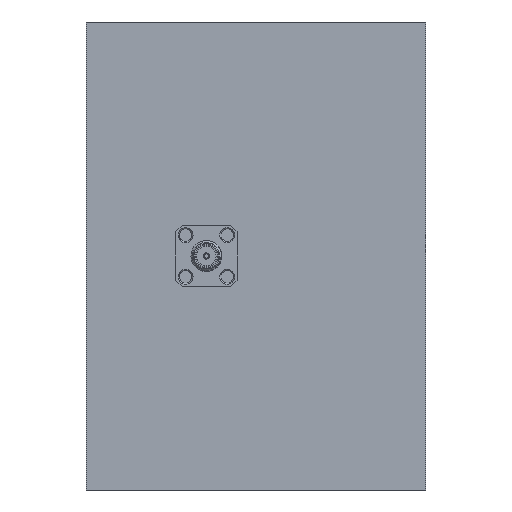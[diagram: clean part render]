
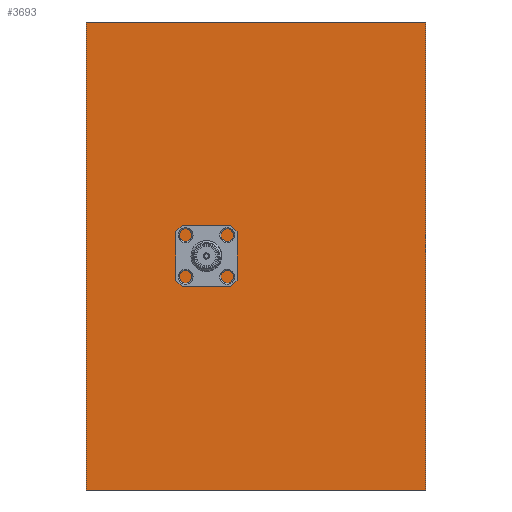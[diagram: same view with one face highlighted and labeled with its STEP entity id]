
A CAD part, front view. The second image highlights one B-rep face of the part: STEP entity #3693.
In plain terms, the highlighted planar face has unit normal (0, -1, 0).
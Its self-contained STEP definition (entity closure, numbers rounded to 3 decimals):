
#121 = ORIENTED_EDGE ( 'NONE', *, *, #3993, .F. ) ;
#160 = LINE ( 'NONE', #3854, #880 ) ;
#168 = CARTESIAN_POINT ( 'NONE',  ( -35., 0., 48.3 ) ) ;
#465 = CARTESIAN_POINT ( 'NONE',  ( 35., 0., 48.3 ) ) ;
#480 = VERTEX_POINT ( 'NONE', #3245 ) ;
#513 = FACE_OUTER_BOUND ( 'NONE', #3145, .T. ) ;
#537 = PLANE ( 'NONE',  #1233 ) ;
#632 = DIRECTION ( 'NONE',  ( 0., 0., 1. ) ) ;
#880 = VECTOR ( 'NONE', #1437, 1000. ) ;
#942 = VECTOR ( 'NONE', #1284, 1000. ) ;
#1164 = VERTEX_POINT ( 'NONE', #2532 ) ;
#1197 = DIRECTION ( 'NONE',  ( 1., 0., 0. ) ) ;
#1233 = AXIS2_PLACEMENT_3D ( 'NONE', #2187, #3604, #3579 ) ;
#1254 = CARTESIAN_POINT ( 'NONE',  ( -35., 0., 48.3 ) ) ;
#1284 = DIRECTION ( 'NONE',  ( -1., 0., 0. ) ) ;
#1305 = CIRCLE ( 'NONE', #1587, 1.25 ) ;
#1437 = DIRECTION ( 'NONE',  ( 0., 0., -1. ) ) ;
#1582 = ORIENTED_EDGE ( 'NONE', *, *, #2985, .F. ) ;
#1587 = AXIS2_PLACEMENT_3D ( 'NONE', #4367, #2012, #632 ) ;
#1664 = EDGE_CURVE ( 'NONE', #480, #2156, #4276, .T. ) ;
#2012 = DIRECTION ( 'NONE',  ( 0., 1., 0. ) ) ;
#2156 = VERTEX_POINT ( 'NONE', #3540 ) ;
#2187 = CARTESIAN_POINT ( 'NONE',  ( 0., 0., 0. ) ) ;
#2225 = ORIENTED_EDGE ( 'NONE', *, *, #2774, .T. ) ;
#2246 = ORIENTED_EDGE ( 'NONE', *, *, #1664, .F. ) ;
#2298 = ORIENTED_EDGE ( 'NONE', *, *, #4369, .F. ) ;
#2308 = LINE ( 'NONE', #2618, #942 ) ;
#2465 = VERTEX_POINT ( 'NONE', #465 ) ;
#2510 = EDGE_LOOP ( 'NONE', ( #2225 ) ) ;
#2532 = CARTESIAN_POINT ( 'NONE',  ( -10.25, 0., 1.25 ) ) ;
#2618 = CARTESIAN_POINT ( 'NONE',  ( -35., 0., -48.3 ) ) ;
#2774 = EDGE_CURVE ( 'NONE', #1164, #1164, #1305, .T. ) ;
#2985 = EDGE_CURVE ( 'NONE', #4222, #480, #2308, .T. ) ;
#2991 = FACE_BOUND ( 'NONE', #2510, .T. ) ;
#3145 = EDGE_LOOP ( 'NONE', ( #2298, #121, #2246, #1582 ) ) ;
#3245 = CARTESIAN_POINT ( 'NONE',  ( -35., 0., -48.3 ) ) ;
#3540 = CARTESIAN_POINT ( 'NONE',  ( -35., 0., 48.3 ) ) ;
#3579 = DIRECTION ( 'NONE',  ( 0., 0., -1. ) ) ;
#3604 = DIRECTION ( 'NONE',  ( 0., -1., 0. ) ) ;
#3693 = ADVANCED_FACE ( 'NONE', ( #2991, #513 ), #537, .T. ) ;
#3715 = DIRECTION ( 'NONE',  ( 0., 0., 1. ) ) ;
#3854 = CARTESIAN_POINT ( 'NONE',  ( 35., 0., 48.3 ) ) ;
#3993 = EDGE_CURVE ( 'NONE', #2156, #2465, #4262, .T. ) ;
#4160 = VECTOR ( 'NONE', #1197, 1000. ) ;
#4222 = VERTEX_POINT ( 'NONE', #4418 ) ;
#4262 = LINE ( 'NONE', #168, #4160 ) ;
#4276 = LINE ( 'NONE', #1254, #4400 ) ;
#4367 = CARTESIAN_POINT ( 'NONE',  ( -10.25, 0., 0. ) ) ;
#4369 = EDGE_CURVE ( 'NONE', #2465, #4222, #160, .T. ) ;
#4400 = VECTOR ( 'NONE', #3715, 1000. ) ;
#4418 = CARTESIAN_POINT ( 'NONE',  ( 35., 0., -48.3 ) ) ;
